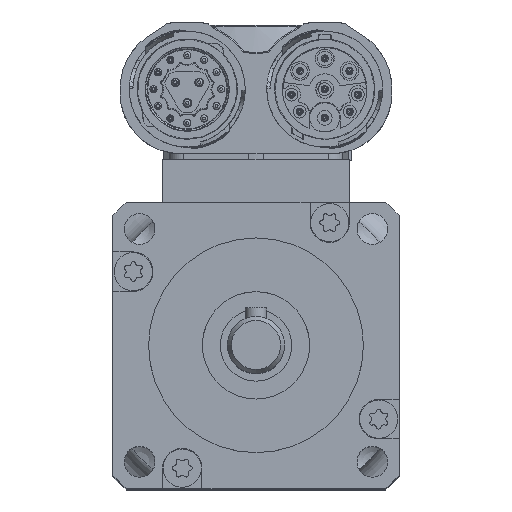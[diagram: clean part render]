
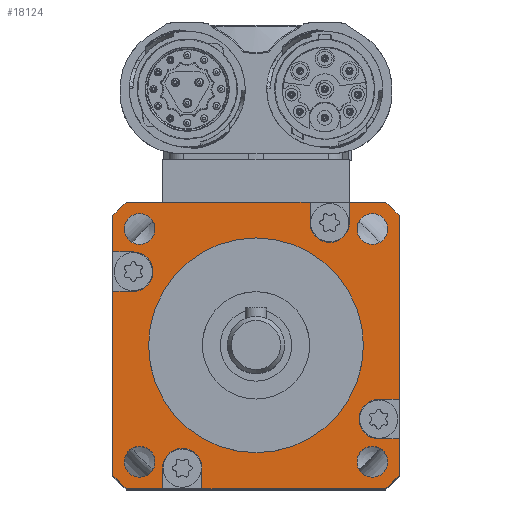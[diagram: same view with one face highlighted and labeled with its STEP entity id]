
A CAD part, top view. The second image highlights one B-rep face of the part: STEP entity #18124.
In plain terms, the highlighted planar face has unit normal (0, 0, 1).
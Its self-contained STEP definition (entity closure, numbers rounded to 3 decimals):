
#1042=LINE('',#27266,#1898);
#1047=LINE('',#27280,#1903);
#1051=LINE('',#27294,#1907);
#1056=LINE('',#27308,#1912);
#1060=LINE('',#27322,#1916);
#1065=LINE('',#27336,#1921);
#1069=LINE('',#27354,#1925);
#1070=LINE('',#27357,#1926);
#1071=LINE('',#27359,#1927);
#1072=LINE('',#27362,#1928);
#1073=LINE('',#27364,#1929);
#1074=LINE('',#27368,#1930);
#1075=LINE('',#27370,#1931);
#1076=LINE('',#27374,#1932);
#1077=LINE('',#27376,#1933);
#1078=LINE('',#27379,#1934);
#1898=VECTOR('',#21667,2.857);
#1903=VECTOR('',#21680,2.857);
#1907=VECTOR('',#21694,2.857);
#1912=VECTOR('',#21707,2.857);
#1916=VECTOR('',#21721,2.857);
#1921=VECTOR('',#21734,2.857);
#1925=VECTOR('',#21752,25.689);
#1926=VECTOR('',#21755,5.088);
#1927=VECTOR('',#21756,25.689);
#1928=VECTOR('',#21759,5.088);
#1929=VECTOR('',#21760,25.689);
#1930=VECTOR('',#21763,5.088);
#1931=VECTOR('',#21764,2.857);
#1932=VECTOR('',#21767,2.857);
#1933=VECTOR('',#21768,25.689);
#1934=VECTOR('',#21771,5.088);
#2763=PLANE('',#19313);
#3078=FACE_BOUND('',#4480,.T.);
#3079=FACE_BOUND('',#4481,.T.);
#3080=FACE_BOUND('',#4482,.T.);
#3081=FACE_BOUND('',#4483,.T.);
#3082=FACE_BOUND('',#4484,.T.);
#3083=FACE_BOUND('',#4485,.T.);
#4480=EDGE_LOOP('',(#12039));
#4481=EDGE_LOOP('',(#12040));
#4482=EDGE_LOOP('',(#12041));
#4483=EDGE_LOOP('',(#12042));
#4484=EDGE_LOOP('',(#12043));
#4485=EDGE_LOOP('',(#12044,#12045,#12046,#12047,#12048,#12049,#12050,#12051,
#12052,#12053,#12054,#12055,#12056,#12057,#12058,#12059,#12060,#12061,#12062,
#12063,#12064,#12065,#12066,#12067));
#5851=CIRCLE('',#19291,2.75);
#5855=CIRCLE('',#19300,2.75);
#5859=CIRCLE('',#19309,2.75);
#5861=CIRCLE('',#19314,2.15);
#5862=CIRCLE('',#19315,2.15);
#5863=CIRCLE('',#19316,2.15);
#5864=CIRCLE('',#19317,2.15);
#5865=CIRCLE('',#19318,15.);
#5866=CIRCLE('',#19319,27.);
#5867=CIRCLE('',#19320,27.);
#5868=CIRCLE('',#19321,27.);
#5869=CIRCLE('',#19322,2.75);
#5870=CIRCLE('',#19323,27.);
#7208=VERTEX_POINT('',#27264);
#7209=VERTEX_POINT('',#27265);
#7212=VERTEX_POINT('',#27273);
#7214=VERTEX_POINT('',#27279);
#7218=VERTEX_POINT('',#27292);
#7219=VERTEX_POINT('',#27293);
#7222=VERTEX_POINT('',#27301);
#7224=VERTEX_POINT('',#27307);
#7228=VERTEX_POINT('',#27320);
#7229=VERTEX_POINT('',#27321);
#7232=VERTEX_POINT('',#27329);
#7234=VERTEX_POINT('',#27335);
#7236=VERTEX_POINT('',#27343);
#7237=VERTEX_POINT('',#27345);
#7238=VERTEX_POINT('',#27347);
#7239=VERTEX_POINT('',#27349);
#7240=VERTEX_POINT('',#27351);
#7241=VERTEX_POINT('',#27353);
#7242=VERTEX_POINT('',#27355);
#7243=VERTEX_POINT('',#27358);
#7244=VERTEX_POINT('',#27360);
#7245=VERTEX_POINT('',#27363);
#7246=VERTEX_POINT('',#27365);
#7247=VERTEX_POINT('',#27367);
#7248=VERTEX_POINT('',#27369);
#7249=VERTEX_POINT('',#27371);
#7250=VERTEX_POINT('',#27373);
#7251=VERTEX_POINT('',#27375);
#7252=VERTEX_POINT('',#27377);
#9147=EDGE_CURVE('',#7208,#7209,#1042,.T.);
#9151=EDGE_CURVE('',#7212,#7208,#5851,.T.);
#9154=EDGE_CURVE('',#7214,#7212,#1047,.T.);
#9160=EDGE_CURVE('',#7218,#7219,#1051,.T.);
#9164=EDGE_CURVE('',#7222,#7218,#5855,.T.);
#9167=EDGE_CURVE('',#7224,#7222,#1056,.T.);
#9173=EDGE_CURVE('',#7228,#7229,#1060,.T.);
#9177=EDGE_CURVE('',#7232,#7228,#5859,.T.);
#9180=EDGE_CURVE('',#7234,#7232,#1065,.T.);
#9184=EDGE_CURVE('',#7236,#7236,#5861,.T.);
#9185=EDGE_CURVE('',#7237,#7237,#5862,.T.);
#9186=EDGE_CURVE('',#7238,#7238,#5863,.T.);
#9187=EDGE_CURVE('',#7239,#7239,#5864,.T.);
#9188=EDGE_CURVE('',#7240,#7240,#5865,.T.);
#9189=EDGE_CURVE('',#7241,#7209,#1069,.T.);
#9190=EDGE_CURVE('',#7242,#7241,#5866,.T.);
#9191=EDGE_CURVE('',#7224,#7242,#1070,.T.);
#9192=EDGE_CURVE('',#7243,#7219,#1071,.T.);
#9193=EDGE_CURVE('',#7244,#7243,#5867,.T.);
#9194=EDGE_CURVE('',#7234,#7244,#1072,.T.);
#9195=EDGE_CURVE('',#7245,#7229,#1073,.T.);
#9196=EDGE_CURVE('',#7246,#7245,#5868,.T.);
#9197=EDGE_CURVE('',#7247,#7246,#1074,.T.);
#9198=EDGE_CURVE('',#7247,#7248,#1075,.T.);
#9199=EDGE_CURVE('',#7248,#7249,#5869,.T.);
#9200=EDGE_CURVE('',#7249,#7250,#1076,.T.);
#9201=EDGE_CURVE('',#7251,#7250,#1077,.T.);
#9202=EDGE_CURVE('',#7252,#7251,#5870,.T.);
#9203=EDGE_CURVE('',#7214,#7252,#1078,.T.);
#12039=ORIENTED_EDGE('',*,*,#9184,.T.);
#12040=ORIENTED_EDGE('',*,*,#9185,.T.);
#12041=ORIENTED_EDGE('',*,*,#9186,.T.);
#12042=ORIENTED_EDGE('',*,*,#9187,.T.);
#12043=ORIENTED_EDGE('',*,*,#9188,.T.);
#12044=ORIENTED_EDGE('',*,*,#9154,.T.);
#12045=ORIENTED_EDGE('',*,*,#9151,.T.);
#12046=ORIENTED_EDGE('',*,*,#9147,.T.);
#12047=ORIENTED_EDGE('',*,*,#9189,.F.);
#12048=ORIENTED_EDGE('',*,*,#9190,.F.);
#12049=ORIENTED_EDGE('',*,*,#9191,.F.);
#12050=ORIENTED_EDGE('',*,*,#9167,.T.);
#12051=ORIENTED_EDGE('',*,*,#9164,.T.);
#12052=ORIENTED_EDGE('',*,*,#9160,.T.);
#12053=ORIENTED_EDGE('',*,*,#9192,.F.);
#12054=ORIENTED_EDGE('',*,*,#9193,.F.);
#12055=ORIENTED_EDGE('',*,*,#9194,.F.);
#12056=ORIENTED_EDGE('',*,*,#9180,.T.);
#12057=ORIENTED_EDGE('',*,*,#9177,.T.);
#12058=ORIENTED_EDGE('',*,*,#9173,.T.);
#12059=ORIENTED_EDGE('',*,*,#9195,.F.);
#12060=ORIENTED_EDGE('',*,*,#9196,.F.);
#12061=ORIENTED_EDGE('',*,*,#9197,.F.);
#12062=ORIENTED_EDGE('',*,*,#9198,.T.);
#12063=ORIENTED_EDGE('',*,*,#9199,.T.);
#12064=ORIENTED_EDGE('',*,*,#9200,.T.);
#12065=ORIENTED_EDGE('',*,*,#9201,.F.);
#12066=ORIENTED_EDGE('',*,*,#9202,.F.);
#12067=ORIENTED_EDGE('',*,*,#9203,.F.);
#18124=ADVANCED_FACE('',(#3078,#3079,#3080,#3081,#3082,#3083),#2763,.T.);
#19291=AXIS2_PLACEMENT_3D('',#27274,#21673,#21674);
#19300=AXIS2_PLACEMENT_3D('',#27302,#21700,#21701);
#19309=AXIS2_PLACEMENT_3D('',#27330,#21727,#21728);
#19313=AXIS2_PLACEMENT_3D('',#27342,#21740,#21741);
#19314=AXIS2_PLACEMENT_3D('',#27344,#21742,#21743);
#19315=AXIS2_PLACEMENT_3D('',#27346,#21744,#21745);
#19316=AXIS2_PLACEMENT_3D('',#27348,#21746,#21747);
#19317=AXIS2_PLACEMENT_3D('',#27350,#21748,#21749);
#19318=AXIS2_PLACEMENT_3D('',#27352,#21750,#21751);
#19319=AXIS2_PLACEMENT_3D('',#27356,#21753,#21754);
#19320=AXIS2_PLACEMENT_3D('',#27361,#21757,#21758);
#19321=AXIS2_PLACEMENT_3D('',#27366,#21761,#21762);
#19322=AXIS2_PLACEMENT_3D('',#27372,#21765,#21766);
#19323=AXIS2_PLACEMENT_3D('',#27378,#21769,#21770);
#21667=DIRECTION('',(-1.,0.,0.));
#21673=DIRECTION('center_axis',(0.,0.,-1.));
#21674=DIRECTION('ref_axis',(0.,-1.,0.));
#21680=DIRECTION('',(1.,0.,0.));
#21694=DIRECTION('',(0.,-1.,0.));
#21700=DIRECTION('center_axis',(0.,0.,-1.));
#21701=DIRECTION('ref_axis',(1.,0.,0.));
#21707=DIRECTION('',(0.,1.,0.));
#21721=DIRECTION('',(1.,0.,0.));
#21727=DIRECTION('center_axis',(0.,0.,-1.));
#21728=DIRECTION('ref_axis',(0.,1.,0.));
#21734=DIRECTION('',(-1.,0.,0.));
#21740=DIRECTION('center_axis',(0.,0.,1.));
#21741=DIRECTION('ref_axis',(1.,0.,0.));
#21742=DIRECTION('center_axis',(0.,0.,-1.));
#21743=DIRECTION('ref_axis',(0.,1.,0.));
#21744=DIRECTION('center_axis',(0.,0.,-1.));
#21745=DIRECTION('ref_axis',(1.,0.,0.));
#21746=DIRECTION('center_axis',(0.,0.,-1.));
#21747=DIRECTION('ref_axis',(0.,-1.,0.));
#21748=DIRECTION('center_axis',(0.,0.,-1.));
#21749=DIRECTION('ref_axis',(-1.,0.,0.));
#21750=DIRECTION('center_axis',(0.,0.,-1.));
#21751=DIRECTION('ref_axis',(-1.,0.,0.));
#21752=DIRECTION('',(0.,1.,0.));
#21753=DIRECTION('center_axis',(0.,0.,-1.));
#21754=DIRECTION('ref_axis',(0.741,0.672,0.));
#21755=DIRECTION('',(-1.,0.,0.));
#21756=DIRECTION('',(-1.,0.,0.));
#21757=DIRECTION('center_axis',(0.,0.,-1.));
#21758=DIRECTION('ref_axis',(-0.672,0.741,0.));
#21759=DIRECTION('',(0.,-1.,0.));
#21760=DIRECTION('',(0.,-1.,0.));
#21761=DIRECTION('center_axis',(0.,0.,-1.));
#21762=DIRECTION('ref_axis',(-0.741,-0.672,0.));
#21763=DIRECTION('',(1.,0.,0.));
#21764=DIRECTION('',(0.,-1.,0.));
#21765=DIRECTION('center_axis',(0.,0.,-1.));
#21766=DIRECTION('ref_axis',(-1.,0.,0.));
#21767=DIRECTION('',(0.,1.,0.));
#21768=DIRECTION('',(1.,0.,0.));
#21769=DIRECTION('center_axis',(0.,0.,-1.));
#21770=DIRECTION('ref_axis',(0.672,-0.741,0.));
#21771=DIRECTION('',(0.,1.,0.));
#27264=CARTESIAN_POINT('',(-17.143,7.551,0.));
#27265=CARTESIAN_POINT('',(-20.,7.551,0.));
#27266=CARTESIAN_POINT('',(-8.572,7.551,0.));
#27273=CARTESIAN_POINT('',(-17.143,13.051,0.));
#27274=CARTESIAN_POINT('Origin',(-17.143,10.301,0.));
#27279=CARTESIAN_POINT('',(-20.,13.051,0.));
#27280=CARTESIAN_POINT('',(-10.,13.051,0.));
#27292=CARTESIAN_POINT('',(-7.551,-17.143,0.));
#27293=CARTESIAN_POINT('',(-7.551,-20.,0.));
#27294=CARTESIAN_POINT('',(-7.551,-8.572,0.));
#27301=CARTESIAN_POINT('',(-13.051,-17.143,0.));
#27302=CARTESIAN_POINT('Origin',(-10.301,-17.143,0.));
#27307=CARTESIAN_POINT('',(-13.051,-20.,0.));
#27308=CARTESIAN_POINT('',(-13.051,-10.,0.));
#27320=CARTESIAN_POINT('',(17.143,-7.551,0.));
#27321=CARTESIAN_POINT('',(20.,-7.551,0.));
#27322=CARTESIAN_POINT('',(8.572,-7.551,0.));
#27329=CARTESIAN_POINT('',(17.143,-13.051,0.));
#27330=CARTESIAN_POINT('Origin',(17.143,-10.301,0.));
#27335=CARTESIAN_POINT('',(20.,-13.051,0.));
#27336=CARTESIAN_POINT('',(10.,-13.051,0.));
#27342=CARTESIAN_POINT('Origin',(0.,0.,
0.));
#27343=CARTESIAN_POINT('',(16.263,14.113,0.));
#27344=CARTESIAN_POINT('Origin',(16.263,16.263,0.));
#27345=CARTESIAN_POINT('',(14.113,-16.263,0.));
#27346=CARTESIAN_POINT('Origin',(16.263,-16.263,0.));
#27347=CARTESIAN_POINT('',(-16.263,-14.113,0.));
#27348=CARTESIAN_POINT('Origin',(-16.263,-16.263,0.));
#27349=CARTESIAN_POINT('',(-14.113,16.263,0.));
#27350=CARTESIAN_POINT('Origin',(-16.263,16.263,0.));
#27351=CARTESIAN_POINT('',(15.,0.,0.));
#27352=CARTESIAN_POINT('Origin',(0.,0.,0.));
#27353=CARTESIAN_POINT('',(-20.,-18.138,0.));
#27354=CARTESIAN_POINT('',(-20.,-18.138,0.));
#27355=CARTESIAN_POINT('',(-18.138,-20.,0.));
#27356=CARTESIAN_POINT('Origin',(0.,0.,0.));
#27357=CARTESIAN_POINT('',(18.138,-20.,0.));
#27358=CARTESIAN_POINT('',(18.138,-20.,0.));
#27359=CARTESIAN_POINT('',(18.138,-20.,0.));
#27360=CARTESIAN_POINT('',(20.,-18.138,0.));
#27361=CARTESIAN_POINT('Origin',(0.,0.,0.));
#27362=CARTESIAN_POINT('',(20.,18.138,0.));
#27363=CARTESIAN_POINT('',(20.,18.138,0.));
#27364=CARTESIAN_POINT('',(20.,18.138,0.));
#27365=CARTESIAN_POINT('',(18.138,20.,0.));
#27366=CARTESIAN_POINT('Origin',(0.,0.,0.));
#27367=CARTESIAN_POINT('',(13.051,20.,0.));
#27368=CARTESIAN_POINT('',(-18.138,20.,0.));
#27369=CARTESIAN_POINT('',(13.051,17.143,0.));
#27370=CARTESIAN_POINT('',(13.051,10.,0.));
#27371=CARTESIAN_POINT('',(7.551,17.143,0.));
#27372=CARTESIAN_POINT('Origin',(10.301,17.143,0.));
#27373=CARTESIAN_POINT('',(7.551,20.,0.));
#27374=CARTESIAN_POINT('',(7.551,8.572,0.));
#27375=CARTESIAN_POINT('',(-18.138,20.,0.));
#27376=CARTESIAN_POINT('',(-18.138,20.,0.));
#27377=CARTESIAN_POINT('',(-20.,18.138,0.));
#27378=CARTESIAN_POINT('Origin',(0.,0.,0.));
#27379=CARTESIAN_POINT('',(-20.,-18.138,0.));
